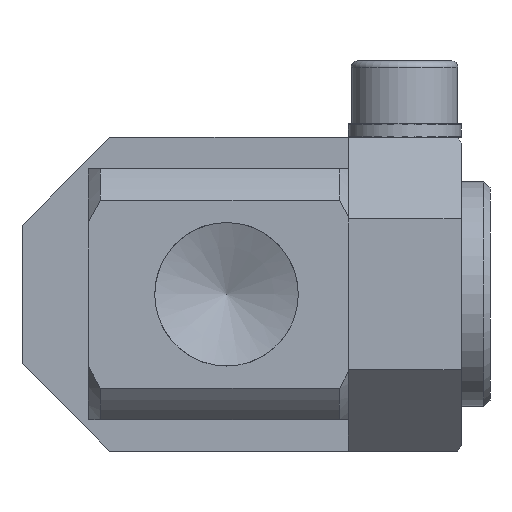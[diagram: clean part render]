
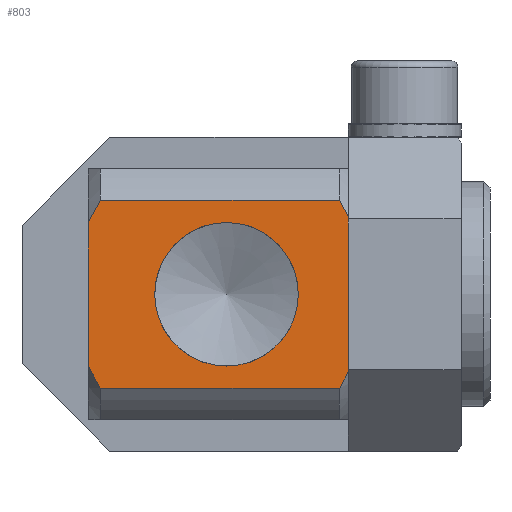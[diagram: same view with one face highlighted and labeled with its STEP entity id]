
A CAD part, front view. The second image highlights one B-rep face of the part: STEP entity #803.
In plain terms, the highlighted planar face has unit normal (0, -1, 0).
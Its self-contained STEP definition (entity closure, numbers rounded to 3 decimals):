
#803=ADVANCED_FACE('',(#1755,#1756),#1757,.T.);
#1755=FACE_BOUND('',#2933,.T.);
#1756=FACE_OUTER_BOUND('',#2934,.T.);
#1757=PLANE('',#2935);
#2933=EDGE_LOOP('',(#9186));
#2934=EDGE_LOOP('',(#9187,#9188,#9189,#9190,#9191,#9192,#9193,#9194));
#2935=AXIS2_PLACEMENT_3D('',#9195,#9196,#9197);
#9186=ORIENTED_EDGE('',*,*,#12004,.T.);
#9187=ORIENTED_EDGE('',*,*,#12000,.F.);
#9188=ORIENTED_EDGE('',*,*,#12005,.T.);
#9189=ORIENTED_EDGE('',*,*,#12006,.F.);
#9190=ORIENTED_EDGE('',*,*,#12007,.T.);
#9191=ORIENTED_EDGE('',*,*,#12008,.F.);
#9192=ORIENTED_EDGE('',*,*,#12009,.T.);
#9193=ORIENTED_EDGE('',*,*,#12010,.F.);
#9194=ORIENTED_EDGE('',*,*,#12011,.F.);
#9195=CARTESIAN_POINT('',(-10.0,-10.0,10.5));
#9196=DIRECTION('',(0.0,-1.0,0.0));
#9197=DIRECTION('',(0.0,0.0,-1.0));
#12000=EDGE_CURVE('',#13409,#13412,#13413,.T.);
#12004=EDGE_CURVE('',#13418,#13418,#13419,.T.);
#12005=EDGE_CURVE('',#13409,#13420,#13421,.T.);
#12006=EDGE_CURVE('',#13422,#13420,#13423,.T.);
#12007=EDGE_CURVE('',#13422,#13424,#13425,.T.);
#12008=EDGE_CURVE('',#13426,#13424,#13427,.T.);
#12009=EDGE_CURVE('',#13426,#13428,#13429,.F.);
#12010=EDGE_CURVE('',#13430,#13428,#13431,.T.);
#12011=EDGE_CURVE('',#13412,#13430,#13432,.T.);
#13409=VERTEX_POINT('',#15672);
#13412=VERTEX_POINT('',#15675);
#13413=B_SPLINE_CURVE_WITH_KNOTS('',3,(#15676,#15677,#15678,#15679),.UNSPECIFIED.,.F.,.F.,(4,4),(0.016,0.018),.UNSPECIFIED.);
#13418=VERTEX_POINT('',#15687);
#13419=CIRCLE('',#15688,5.723);
#13420=VERTEX_POINT('',#15689);
#13421=LINE('',#15690,#15691);
#13422=VERTEX_POINT('',#15692);
#13423=B_SPLINE_CURVE_WITH_KNOTS('',3,(#15693,#15694,#15695,#15696),.UNSPECIFIED.,.F.,.F.,(4,4),(0.03,0.032),.UNSPECIFIED.);
#13424=VERTEX_POINT('',#15697);
#13425=LINE('',#15698,#15699);
#13426=VERTEX_POINT('',#15700);
#13427=B_SPLINE_CURVE_WITH_KNOTS('',3,(#15701,#15702,#15703,#15704),.UNSPECIFIED.,.F.,.F.,(4,4),(0.016,0.018),.UNSPECIFIED.);
#13428=VERTEX_POINT('',#15705);
#13429=LINE('',#15706,#15707);
#13430=VERTEX_POINT('',#15708);
#13431=B_SPLINE_CURVE_WITH_KNOTS('',3,(#15709,#15710,#15711,#15712),.UNSPECIFIED.,.F.,.F.,(4,4),(0.03,0.032),.UNSPECIFIED.);
#13432=LINE('',#15713,#15714);
#15672=CARTESIAN_POINT('',(7.5,-10.0,-9.5));
#15675=CARTESIAN_POINT('',(5.679,-10.0,-10.5));
#15676=CARTESIAN_POINT('',(7.5,-10.0,-9.5));
#15677=CARTESIAN_POINT('',(6.908,-10.0,-9.855));
#15678=CARTESIAN_POINT('',(6.303,-10.0,-10.192));
#15679=CARTESIAN_POINT('',(5.679,-10.0,-10.5));
#15687=CARTESIAN_POINT('',(0.0,-10.0,-6.223));
#15688=AXIS2_PLACEMENT_3D('',#19203,#19204,#19205);
#15689=CARTESIAN_POINT('',(7.5,-10.0,9.546));
#15690=CARTESIAN_POINT('',(7.5,-10.0,-29.5));
#15691=VECTOR('',#19206,1.0);
#15692=CARTESIAN_POINT('',(5.772,-10.0,10.5));
#15693=CARTESIAN_POINT('',(5.772,-10.0,10.5));
#15694=CARTESIAN_POINT('',(6.359,-10.0,10.207));
#15695=CARTESIAN_POINT('',(6.934,-10.0,9.886));
#15696=CARTESIAN_POINT('',(7.5,-10.0,9.546));
#15697=CARTESIAN_POINT('',(-5.772,-10.0,10.5));
#15698=CARTESIAN_POINT('',(-10.0,-10.0,10.5));
#15699=VECTOR('',#19207,1.0);
#15700=CARTESIAN_POINT('',(-7.5,-10.0,9.546));
#15701=CARTESIAN_POINT('',(-7.5,-10.0,9.546));
#15702=CARTESIAN_POINT('',(-6.937,-10.0,9.884));
#15703=CARTESIAN_POINT('',(-6.363,-10.0,10.205));
#15704=CARTESIAN_POINT('',(-5.772,-10.0,10.5));
#15705=CARTESIAN_POINT('',(-7.5,-10.0,-9.5));
#15706=CARTESIAN_POINT('',(-7.5,-10.0,-29.5));
#15707=VECTOR('',#19208,1.0);
#15708=CARTESIAN_POINT('',(-5.679,-10.0,-10.5));
#15709=CARTESIAN_POINT('',(-5.679,-10.0,-10.5));
#15710=CARTESIAN_POINT('',(-6.298,-10.0,-10.194));
#15711=CARTESIAN_POINT('',(-6.904,-10.0,-9.858));
#15712=CARTESIAN_POINT('',(-7.5,-10.0,-9.5));
#15713=CARTESIAN_POINT('',(-10.0,-10.0,-10.5));
#15714=VECTOR('',#19209,1.0);
#19203=CARTESIAN_POINT('',(0.0,-10.0,-0.5));
#19204=DIRECTION('',(0.0,1.0,0.0));
#19205=DIRECTION('',(0.0,0.0,-1.0));
#19206=DIRECTION('',(0.0,0.0,1.0));
#19207=DIRECTION('',(-1.0,0.0,0.0));
#19208=DIRECTION('',(0.0,0.0,1.0));
#19209=DIRECTION('',(-1.0,0.0,0.0));
